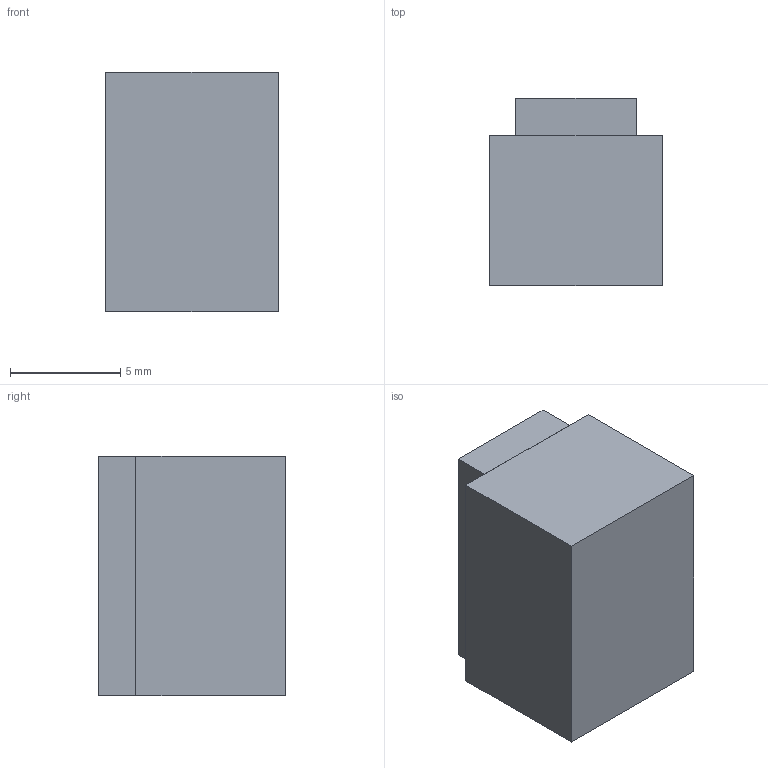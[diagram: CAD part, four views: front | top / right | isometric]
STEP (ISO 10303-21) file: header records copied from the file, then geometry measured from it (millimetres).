
FILE_DESCRIPTION(('Open CASCADE Model'),'2;1');
FILE_NAME('Open CASCADE Shape Model','2000-01-01T00:00:00',('Author'),( 'Open CASCADE'),'Open CASCADE STEP processor 7.9','Open CASCADE 7.9' ,'Unknown');
FILE_SCHEMA((''));
Length unit declared in the file: millimetre
Products named in the file (3): Open CASCADE STEP translator 7.9 1; Open CASCADE STEP translator 7.9 1.1; Open CASCADE STEP translator 7.9 1.2
Assembly tree (2 placements, depth 2):
  Open CASCADE STEP translator 7.9 1
    Open CASCADE STEP translator 7.9 1.1
    Open CASCADE STEP translator 7.9 1.2
Bounding box: 7.86 x 8.5 x 10.9 mm (x, y, z)
Volume: 683.8 mm3; surface area: 601.1 mm2
Topology: 2 solids, 2 shells, 12 faces, 24 edges, 16 vertices
Faces by surface type: plane 12
Entity records: 664 total; most frequent: CARTESIAN_POINT 103, DIRECTION 102, LINE 72, VECTOR 72, ORIENTED_EDGE 48, PCURVE 48, DEFINITIONAL_REPRESENTATION 48, EDGE_CURVE 24
